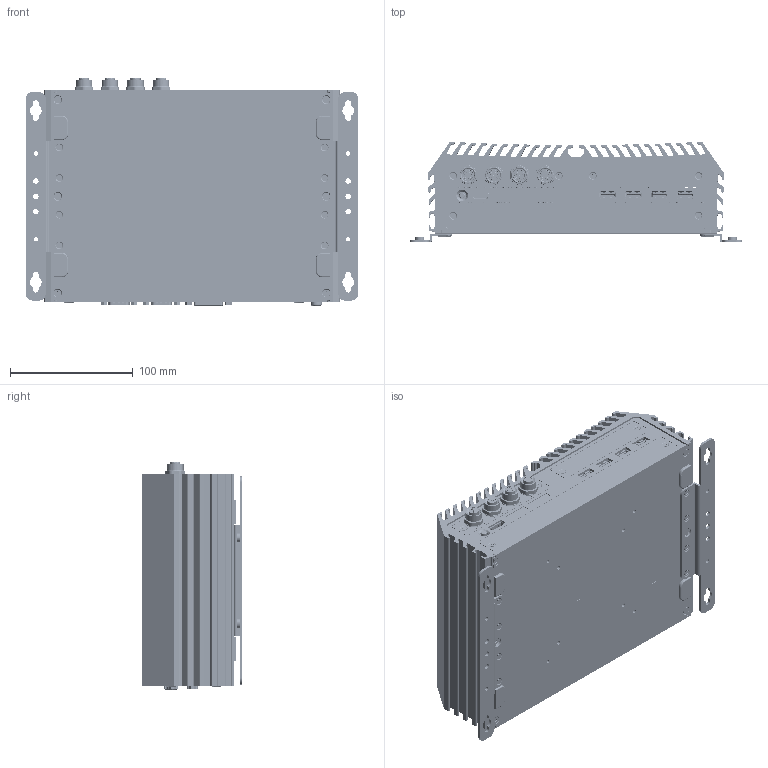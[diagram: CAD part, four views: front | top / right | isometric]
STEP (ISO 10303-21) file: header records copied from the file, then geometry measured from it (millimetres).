
FILE_DESCRIPTION (( 'STEP AP203' ), '1' );
FILE_NAME ('DX-1200+M12+Wall Mount_20250320.STEP', '2025-03-20T10:03:51', ( '' ), ( '' ), 'SwSTEP 2.0', 'SolidWorks 2014', '' );
FILE_SCHEMA (( 'CONFIG_CONTROL_DESIGN' ));
Length unit declared in the file: millimetre
Products named in the file (37): 12-08PFFR-SF7001-主體; Copper Stud_S38400B25N01(M3-COSD6L00000); D-SUB 9_雙層_D20H1P1PA112A111N2(23-D0101100181); Front Bezel(M1-408110024100); DX-1200+M12+Wall Mount_20250320; 12-08PFFR-SF7001-螺座; F頭_M3x5(T10)(120)_黑(M3-N103052230); Terminal Block_ECH350R-04P(23-D0341500040); Rear Bezel(M1-408100031200); 12-08PFFR-SF7001-O環-大; F頭_M3X8(T10)(90)_黑(M3-N103082260); DVI-1-H-RISE(23-D0092300293); Front Matching Bezel(CNC)(M1-408100081220); 12-08PFFR-SF7001-O環-小; F頭_M3x18(T10)(120)+溝槽_黑(M3-1103182270); RJ45+USB3.0x2_三層_JFM38U1B_B313_4F(23-D0202300320); Small Matching Bezel(M1-408100081200); 12-08PFFR-SF7001-螺帽; P頭_M5x8(十字)(太陽華司)(M3-SCREAB00002) ; DC_IN1_5EHDRM-03P_8(23-D0341500030); DP1_Displayport_(23-D0242300200); M12-A Coded asm-12-08PFFR-SF7001; Hole_Plug,MHD-7(M4-RUBR0100000); USB3.0_SMT_122-0921NA0504(23-S0142300090); PWR_BTN_TC003; Top Cover; M12 Board; Rubber Foot(M4-RUFT0100001); WHDM-19FLBSDR; Terminal Block_ECH350R-02P(23-D0341500020); Top Cover(M1-408100006300); Small Matching Bezel for M12(M1-408100081229); Symbol_Panel(M0-ZZZZ5C3003); Main Board; Audio Jack_雙層_T-A032134001(23-D0262300090); Bottom Cover(M1-408100011100); Wall Mount Bracket(M1-208100051200)
Assembly tree (82 placements, depth 4):
  DX-1200+M12+Wall Mount_20250320
    Top Cover(M1-408100006300)
      Top Cover
    Bottom Cover(M1-408100011100)
    Front Bezel(M1-408110024100)
    Rear Bezel(M1-408100031200)
    Front Matching Bezel(CNC)(M1-408100081220)
    Small Matching Bezel(M1-408100081200)  x3
    Main Board
      DP1_Displayport_(23-D0242300200)
      PWR_BTN_TC003
      Terminal Block_ECH350R-02P(23-D0341500020)
      Audio Jack_雙層_T-A032134001(23-D0262300090)
      D-SUB 9_雙層_D20H1P1PA112A111N2(23-D0101100181)  x2
      Terminal Block_ECH350R-04P(23-D0341500040)
      DVI-1-H-RISE(23-D0092300293)
      RJ45+USB3.0x2_三層_JFM38U1B_B313_4F(23-D0202300320)  x2
      DC_IN1_5EHDRM-03P_8(23-D0341500030)
      USB3.0_SMT_122-0921NA0504(23-S0142300090)  x4
      WHDM-19FLBSDR
    Copper Stud_S38400B25N01(M3-COSD6L00000)  x10
    F頭_M3x5(T10)(120)_黑(M3-N103052230)  x16
    F頭_M3X8(T10)(90)_黑(M3-N103082260)  x6
    F頭_M3x18(T10)(120)+溝槽_黑(M3-1103182270)  x2
    P頭_M5x8(十字)(太陽華司)(M3-SCREAB00002) 
    Hole_Plug,MHD-7(M4-RUBR0100000)  x3
    Rubber Foot(M4-RUFT0100001)  x4
    Symbol_Panel(M0-ZZZZ5C3003)
    M12 Board
      M12-A Coded asm-12-08PFFR-SF7001  x4
        12-08PFFR-SF7001-主體
        12-08PFFR-SF7001-螺座
        12-08PFFR-SF7001-O環-大
        12-08PFFR-SF7001-O環-小
        12-08PFFR-SF7001-螺帽
    Small Matching Bezel for M12(M1-408100081229)
    Wall Mount Bracket(M1-208100051200)  x2
Bounding box: 271 x 81.98 x 186.15 mm (x, y, z)
Volume: 814868.1 mm3; surface area: 551957.1 mm2
Topology: 169 solids, 340 shells, 30065 faces, 83892 edges, 54187 vertices
Faces by surface type: plane 18311, cylinder 8415, bspline 1964, cone 1145, torus 227, sphere 3
Entity records: 614971 total; most frequent: CARTESIAN_POINT 183987, ORIENTED_EDGE 94230, DIRECTION 80549, EDGE_CURVE 47228, LINE 33391, VECTOR 33391, VERTEX_POINT 30588, AXIS2_PLACEMENT_3D 23579
